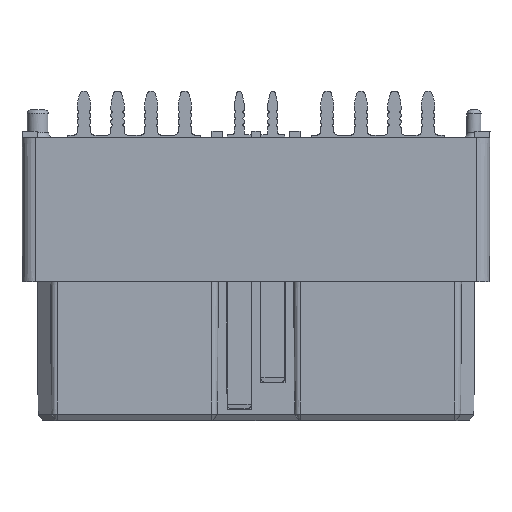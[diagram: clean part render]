
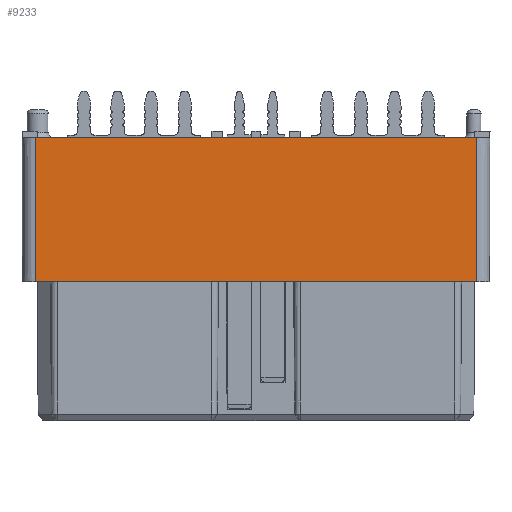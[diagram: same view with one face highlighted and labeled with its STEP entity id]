
A CAD part, front view. The second image highlights one B-rep face of the part: STEP entity #9233.
In plain terms, the highlighted planar face has unit normal (0, -1, -0.004).
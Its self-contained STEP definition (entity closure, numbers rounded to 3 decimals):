
#9233=ADVANCED_FACE('59',(#11434),#10690,.F.);
#10690=PLANE('',#35982);
#11434=FACE_OUTER_BOUND('',#12942,.T.);
#12942=EDGE_LOOP('',(#15392,#15393,#15394,#15395));
#15392=ORIENTED_EDGE('',*,*,#26606,.F.);
#15393=ORIENTED_EDGE('',*,*,#26041,.T.);
#15394=ORIENTED_EDGE('',*,*,#26631,.T.);
#15395=ORIENTED_EDGE('',*,*,#26192,.F.);
#23134=VERTEX_POINT('',#47145);
#23135=VERTEX_POINT('',#47147);
#23242=VERTEX_POINT('',#47478);
#23243=VERTEX_POINT('',#47479);
#26041=EDGE_CURVE('',#23135,#23134,#30344,.T.);
#26192=EDGE_CURVE('',#23242,#23243,#30463,.T.);
#26606=EDGE_CURVE('',#23135,#23242,#30712,.T.);
#26631=EDGE_CURVE('',#23134,#23243,#30733,.T.);
#30344=LINE('',#47146,#33042);
#30463=LINE('',#47477,#33161);
#30712=LINE('',#48787,#33410);
#30733=LINE('',#48835,#33431);
#33042=VECTOR('',#38749,1.);
#33161=VECTOR('',#39022,1.);
#33410=VECTOR('',#39525,1.);
#33431=VECTOR('',#39560,1.);
#35982=AXIS2_PLACEMENT_3D('',#48836,#39561,#39562);
#38749=DIRECTION('',(0.,-0.003,1.));
#39022=DIRECTION('',(0.,-0.003,1.));
#39525=DIRECTION('',(-1.,0.,0.));
#39560=DIRECTION('',(-1.,0.,0.));
#39561=DIRECTION('',(0.,1.,0.003));
#39562=DIRECTION('',(0.,-0.003,1.));
#47145=CARTESIAN_POINT('',(16.7,-3.749,8.947));
#47146=CARTESIAN_POINT('',(16.7,-3.751,9.447));
#47147=CARTESIAN_POINT('',(16.7,-3.711,-1.953));
#47477=CARTESIAN_POINT('',(-16.7,-3.751,9.447));
#47478=CARTESIAN_POINT('',(-16.7,-3.711,-1.953));
#47479=CARTESIAN_POINT('',(-16.7,-3.749,8.947));
#48787=CARTESIAN_POINT('',(0.,-3.711,-1.953));
#48835=CARTESIAN_POINT('',(0.,-3.749,8.947));
#48836=CARTESIAN_POINT('',(17.1,-3.751,9.447));
